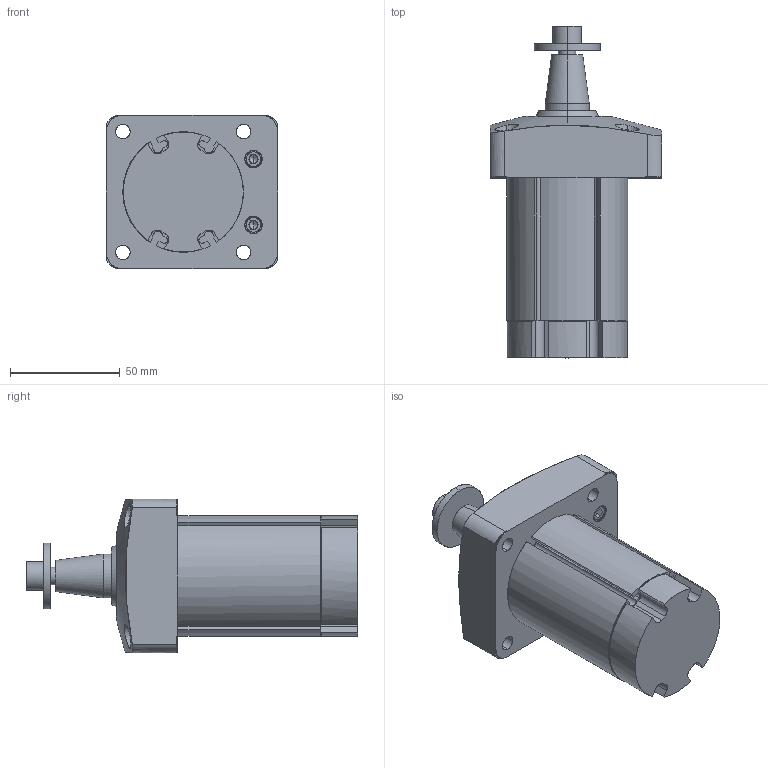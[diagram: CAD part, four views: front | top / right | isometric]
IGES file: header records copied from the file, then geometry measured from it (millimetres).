
Start section: Comment
Global section: file name: jsp32-17.igs; native system:  By Spatial Corp.; preprocessor: XPlus GENERIC/IGES 3.0; author: Author; organization: Title; date: 20080526.131036; units: millimetre
Bounding box: 78 x 151.2 x 70 mm (x, y, z)
Surface area: 66540.7 mm2 (no closed solid volume)
Topology: 0 solids, 0 shells, 297 faces, 1434 edges, 1420 vertices
Faces by surface type: bspline 297
